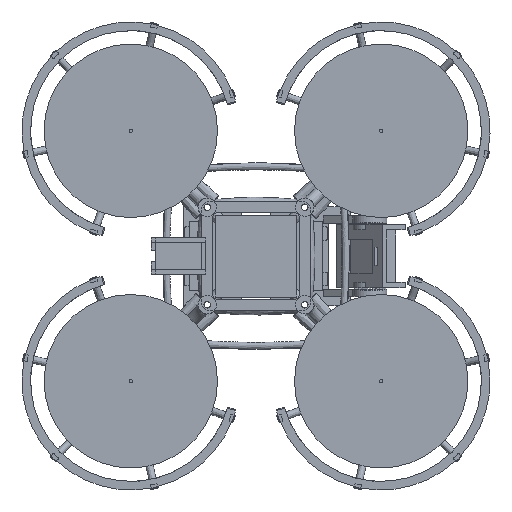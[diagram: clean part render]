
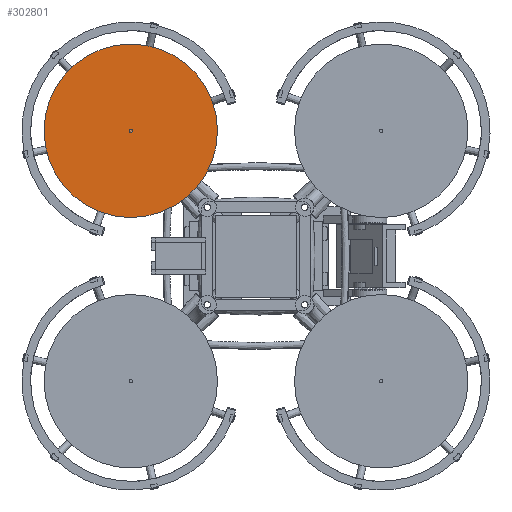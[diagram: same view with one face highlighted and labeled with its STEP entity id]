
A CAD part, top view. The second image highlights one B-rep face of the part: STEP entity #302801.
In plain terms, the highlighted planar face has unit normal (0, 0, 1).
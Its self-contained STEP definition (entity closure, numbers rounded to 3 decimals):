
#302717 = EDGE_CURVE('',#302718,#302718,#302720,.T.);
#302718 = VERTEX_POINT('',#302719);
#302719 = CARTESIAN_POINT('',(-16.9,55.,25.1));
#302720 = SURFACE_CURVE('',#302721,(#302726,#302738),.PCURVE_S1.);
#302721 = CIRCLE('',#302722,38.1);
#302722 = AXIS2_PLACEMENT_3D('',#302723,#302724,#302725);
#302723 = CARTESIAN_POINT('',(-55.,55.,25.1));
#302724 = DIRECTION('',(0.,0.,1.));
#302725 = DIRECTION('',(1.,0.,-0.));
#302726 = PCURVE('',#302727,#302732);
#302727 = CYLINDRICAL_SURFACE('',#302728,38.1);
#302728 = AXIS2_PLACEMENT_3D('',#302729,#302730,#302731);
#302729 = CARTESIAN_POINT('',(-55.,55.,23.1));
#302730 = DIRECTION('',(0.,0.,1.));
#302731 = DIRECTION('',(1.,0.,-0.));
#302732 = DEFINITIONAL_REPRESENTATION('',(#302733),#302737);
#302733 = LINE('',#302734,#302735);
#302734 = CARTESIAN_POINT('',(0.,2.));
#302735 = VECTOR('',#302736,1.);
#302736 = DIRECTION('',(1.,0.));
#302737 = ( GEOMETRIC_REPRESENTATION_CONTEXT(2) 
PARAMETRIC_REPRESENTATION_CONTEXT() REPRESENTATION_CONTEXT('2D SPACE',''
  ) );
#302738 = PCURVE('',#302739,#302744);
#302739 = PLANE('',#302740);
#302740 = AXIS2_PLACEMENT_3D('',#302741,#302742,#302743);
#302741 = CARTESIAN_POINT('',(-55.,55.,25.1));
#302742 = DIRECTION('',(0.,0.,1.));
#302743 = DIRECTION('',(1.,0.,-0.));
#302744 = DEFINITIONAL_REPRESENTATION('',(#302745),#302749);
#302745 = CIRCLE('',#302746,38.1);
#302746 = AXIS2_PLACEMENT_2D('',#302747,#302748);
#302747 = CARTESIAN_POINT('',(0.,0.));
#302748 = DIRECTION('',(1.,0.));
#302749 = ( GEOMETRIC_REPRESENTATION_CONTEXT(2) 
PARAMETRIC_REPRESENTATION_CONTEXT() REPRESENTATION_CONTEXT('2D SPACE',''
  ) );
#302801 = ADVANCED_FACE('',(#302802),#302739,.T.);
#302802 = FACE_BOUND('',#302803,.T.);
#302803 = EDGE_LOOP('',(#302804));
#302804 = ORIENTED_EDGE('',*,*,#302717,.T.);
